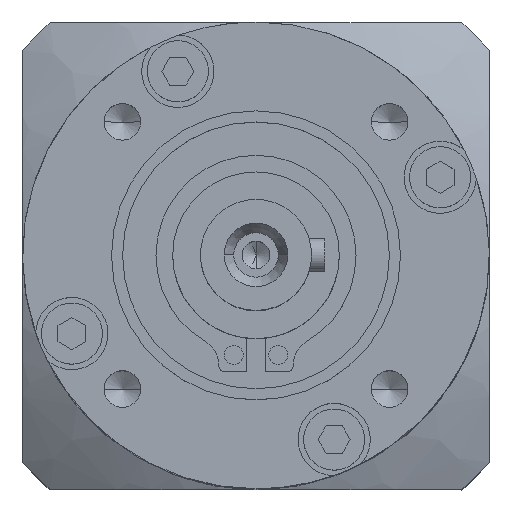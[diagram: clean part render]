
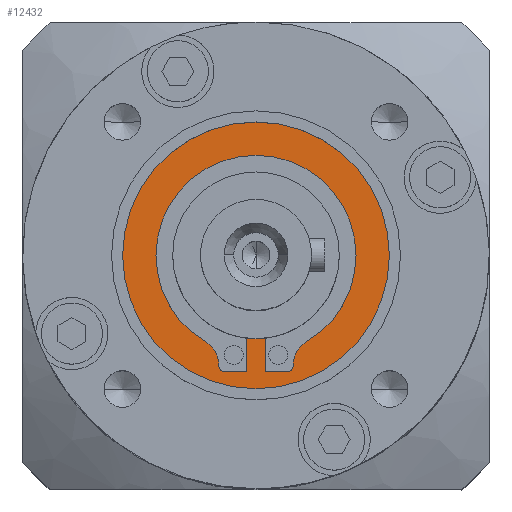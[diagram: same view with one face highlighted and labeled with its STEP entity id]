
A CAD part, top view. The second image highlights one B-rep face of the part: STEP entity #12432.
In plain terms, the highlighted planar face has unit normal (0, 0, 1).
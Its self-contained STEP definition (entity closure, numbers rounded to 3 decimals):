
#39 = ORIENTED_EDGE ( 'NONE', *, *, #1486, .F. ) ;
#129 = DIRECTION ( 'NONE',  ( 0., 0., 1. ) ) ;
#190 = VECTOR ( 'NONE', #17277, 1000. ) ;
#380 = EDGE_CURVE ( 'NONE', #20395, #11304, #1136, .T. ) ;
#399 = LINE ( 'NONE', #17210, #190 ) ;
#412 = EDGE_CURVE ( 'NONE', #4974, #2355, #9052, .T. ) ;
#534 = EDGE_CURVE ( 'NONE', #2355, #8012, #17212, .T. ) ;
#580 = EDGE_CURVE ( 'NONE', #2321, #17096, #399, .T. ) ;
#587 = VERTEX_POINT ( 'NONE', #17269 ) ;
#619 = LINE ( 'NONE', #15959, #16918 ) ;
#631 = AXIS2_PLACEMENT_3D ( 'NONE', #2913, #17170, #4498 ) ;
#654 = VECTOR ( 'NONE', #6638, 1000. ) ;
#829 = ORIENTED_EDGE ( 'NONE', *, *, #11017, .F. ) ;
#883 = VECTOR ( 'NONE', #9338, 1000. ) ;
#918 = VERTEX_POINT ( 'NONE', #19086 ) ;
#967 = ORIENTED_EDGE ( 'NONE', *, *, #19197, .F. ) ;
#1064 = CARTESIAN_POINT ( 'NONE',  ( 0., 0., -2.5 ) ) ;
#1066 = DIRECTION ( 'NONE',  ( 0., 0., -1. ) ) ;
#1088 = DIRECTION ( 'NONE',  ( 0., -1., 0. ) ) ;
#1136 = CIRCLE ( 'NONE', #15933, 9. ) ;
#1176 = VERTEX_POINT ( 'NONE', #14336 ) ;
#1324 = DIRECTION ( 'NONE',  ( -1., 0., 0. ) ) ;
#1348 = ORIENTED_EDGE ( 'NONE', *, *, #8764, .F. ) ;
#1461 = CARTESIAN_POINT ( 'NONE',  ( -3.35, -9.952, -2.5 ) ) ;
#1486 = EDGE_CURVE ( 'NONE', #5136, #2216, #15195, .T. ) ;
#1514 = CARTESIAN_POINT ( 'NONE',  ( 2.85, -9.952, -2.5 ) ) ;
#1724 = CIRCLE ( 'NONE', #17827, 0.5 ) ;
#1930 = VECTOR ( 'NONE', #9065, 1000. ) ;
#2103 = AXIS2_PLACEMENT_3D ( 'NONE', #2337, #13433, #3876 ) ;
#2141 = DIRECTION ( 'NONE',  ( 0., 0., -1. ) ) ;
#2216 = VERTEX_POINT ( 'NONE', #19877 ) ;
#2298 = ORIENTED_EDGE ( 'NONE', *, *, #534, .F. ) ;
#2321 = VERTEX_POINT ( 'NONE', #3595 ) ;
#2337 = CARTESIAN_POINT ( 'NONE',  ( -2.85, -9.952, -2.5 ) ) ;
#2355 = VERTEX_POINT ( 'NONE', #19672 ) ;
#2434 = EDGE_CURVE ( 'NONE', #18330, #5136, #12444, .T. ) ;
#2463 = EDGE_CURVE ( 'NONE', #2216, #5714, #12964, .T. ) ;
#2550 = CARTESIAN_POINT ( 'NONE',  ( 0., 0., -2.5 ) ) ;
#2712 = AXIS2_PLACEMENT_3D ( 'NONE', #4548, #8515, #8537 ) ;
#2913 = CARTESIAN_POINT ( 'NONE',  ( 12.144, -12.144, -2.5 ) ) ;
#3031 = DIRECTION ( 'NONE',  ( -1., 0., 0. ) ) ;
#3194 = CARTESIAN_POINT ( 'NONE',  ( -3.35, 0., -2.5 ) ) ;
#3583 = CIRCLE ( 'NONE', #2103, 0.5 ) ;
#3595 = CARTESIAN_POINT ( 'NONE',  ( -2.85, -10.452, -2.5 ) ) ;
#3876 = DIRECTION ( 'NONE',  ( -1., 0., 0. ) ) ;
#4091 = DIRECTION ( 'NONE',  ( -1., 0., 0. ) ) ;
#4161 = ORIENTED_EDGE ( 'NONE', *, *, #11210, .F. ) ;
#4446 = CIRCLE ( 'NONE', #2712, 9. ) ;
#4498 = DIRECTION ( 'NONE',  ( -1., 0., 0. ) ) ;
#4548 = CARTESIAN_POINT ( 'NONE',  ( 0., 0., -2.5 ) ) ;
#4726 = DIRECTION ( 'NONE',  ( 0., -1., 0. ) ) ;
#4974 = VERTEX_POINT ( 'NONE', #11175 ) ;
#5136 = VERTEX_POINT ( 'NONE', #14726 ) ;
#5251 = CARTESIAN_POINT ( 'NONE',  ( 0., 0., -2.5 ) ) ;
#5314 = DIRECTION ( 'NONE',  ( 0., 0., 1. ) ) ;
#5320 = FACE_BOUND ( 'NONE', #10332, .T. ) ;
#5394 = DIRECTION ( 'NONE',  ( -1., 0., 0. ) ) ;
#5465 = CARTESIAN_POINT ( 'NONE',  ( -9., 0., -2.5 ) ) ;
#5502 = VERTEX_POINT ( 'NONE', #12093 ) ;
#5687 = EDGE_CURVE ( 'NONE', #9029, #1176, #12868, .T. ) ;
#5714 = VERTEX_POINT ( 'NONE', #1461 ) ;
#5814 = DIRECTION ( 'NONE',  ( 0., 1., 0. ) ) ;
#6019 = CARTESIAN_POINT ( 'NONE',  ( 0.85, 0., -2.5 ) ) ;
#6267 = EDGE_CURVE ( 'NONE', #17096, #918, #14046, .T. ) ;
#6638 = DIRECTION ( 'NONE',  ( 0., -1., 0. ) ) ;
#7704 = VECTOR ( 'NONE', #4726, 1000. ) ;
#7732 = ORIENTED_EDGE ( 'NONE', *, *, #17841, .T. ) ;
#8012 = VERTEX_POINT ( 'NONE', #13486 ) ;
#8515 = DIRECTION ( 'NONE',  ( 0., 0., 1. ) ) ;
#8537 = DIRECTION ( 'NONE',  ( -1., 0., 0. ) ) ;
#8764 = EDGE_CURVE ( 'NONE', #5502, #587, #619, .T. ) ;
#8863 = AXIS2_PLACEMENT_3D ( 'NONE', #2550, #13643, #4091 ) ;
#8932 = CARTESIAN_POINT ( 'NONE',  ( 0., 12., -2.5 ) ) ;
#9029 = VERTEX_POINT ( 'NONE', #8932 ) ;
#9037 = CARTESIAN_POINT ( 'NONE',  ( -0.85, 0., -2.5 ) ) ;
#9052 = LINE ( 'NONE', #6019, #654 ) ;
#9065 = DIRECTION ( 'NONE',  ( 0., 1., 0. ) ) ;
#9148 = CARTESIAN_POINT ( 'NONE',  ( 0., 0., -2.5 ) ) ;
#9327 = EDGE_CURVE ( 'NONE', #11304, #18330, #4446, .T. ) ;
#9338 = DIRECTION ( 'NONE',  ( 1., 0., 0. ) ) ;
#9587 = DIRECTION ( 'NONE',  ( -1., 0., 0. ) ) ;
#9670 = ORIENTED_EDGE ( 'NONE', *, *, #412, .F. ) ;
#9785 = DIRECTION ( 'NONE',  ( 0., 0., -1. ) ) ;
#9807 = CARTESIAN_POINT ( 'NONE',  ( -5.85, -9.901, -2.5 ) ) ;
#10126 = FACE_OUTER_BOUND ( 'NONE', #16093, .T. ) ;
#10332 = EDGE_LOOP ( 'NONE', ( #19144, #967, #18749, #39, #11564, #10806, #15620, #829, #1348, #4161, #2298, #9670, #7732, #19760 ) ) ;
#10748 = DIRECTION ( 'NONE',  ( 0., -1., 0. ) ) ;
#10806 = ORIENTED_EDGE ( 'NONE', *, *, #9327, .F. ) ;
#11017 = EDGE_CURVE ( 'NONE', #587, #20395, #13602, .T. ) ;
#11162 = CARTESIAN_POINT ( 'NONE',  ( 0., 0., -2.5 ) ) ;
#11175 = CARTESIAN_POINT ( 'NONE',  ( 0.85, -7.452, -2.5 ) ) ;
#11210 = EDGE_CURVE ( 'NONE', #8012, #5502, #1724, .T. ) ;
#11304 = VERTEX_POINT ( 'NONE', #12803 ) ;
#11381 = CARTESIAN_POINT ( 'NONE',  ( 4.578, -7.749, -2.5 ) ) ;
#11564 = ORIENTED_EDGE ( 'NONE', *, *, #2434, .F. ) ;
#11622 = CARTESIAN_POINT ( 'NONE',  ( 5.85, -9.901, -2.5 ) ) ;
#12093 = CARTESIAN_POINT ( 'NONE',  ( 3.35, -9.952, -2.5 ) ) ;
#12113 = AXIS2_PLACEMENT_3D ( 'NONE', #1064, #1066, #1088 ) ;
#12432 = ADVANCED_FACE ( 'NONE', ( #5320, #10126 ), #12457, .F. ) ;
#12444 = CIRCLE ( 'NONE', #17602, 9. ) ;
#12457 = PLANE ( 'NONE',  #631 ) ;
#12583 = DIRECTION ( 'NONE',  ( 0., 0., 1. ) ) ;
#12786 = AXIS2_PLACEMENT_3D ( 'NONE', #9148, #20240, #10748 ) ;
#12803 = CARTESIAN_POINT ( 'NONE',  ( 9., 0., -2.5 ) ) ;
#12868 = CIRCLE ( 'NONE', #12113, 12. ) ;
#12964 = LINE ( 'NONE', #3194, #7704 ) ;
#13223 = DIRECTION ( 'NONE',  ( -1., 0., 0. ) ) ;
#13433 = DIRECTION ( 'NONE',  ( 0., 0., 1. ) ) ;
#13486 = CARTESIAN_POINT ( 'NONE',  ( 2.85, -10.452, -2.5 ) ) ;
#13561 = EDGE_CURVE ( 'NONE', #1176, #9029, #18229, .T. ) ;
#13602 = CIRCLE ( 'NONE', #17162, 2.5 ) ;
#13640 = ORIENTED_EDGE ( 'NONE', *, *, #13561, .F. ) ;
#13643 = DIRECTION ( 'NONE',  ( 0., 0., -1. ) ) ;
#13814 = CARTESIAN_POINT ( 'NONE',  ( -0.85, -10.452, -2.5 ) ) ;
#14046 = LINE ( 'NONE', #9037, #1930 ) ;
#14336 = CARTESIAN_POINT ( 'NONE',  ( 0., -12., -2.5 ) ) ;
#14726 = CARTESIAN_POINT ( 'NONE',  ( -4.578, -7.749, -2.5 ) ) ;
#15195 = CIRCLE ( 'NONE', #19182, 2.5 ) ;
#15576 = CIRCLE ( 'NONE', #8863, 7.5 ) ;
#15620 = ORIENTED_EDGE ( 'NONE', *, *, #380, .F. ) ;
#15655 = CARTESIAN_POINT ( 'NONE',  ( 0., -10.452, -2.5 ) ) ;
#15933 = AXIS2_PLACEMENT_3D ( 'NONE', #5251, #5314, #5394 ) ;
#15959 = CARTESIAN_POINT ( 'NONE',  ( 3.35, 0., -2.5 ) ) ;
#16093 = EDGE_LOOP ( 'NONE', ( #13640, #18522 ) ) ;
#16918 = VECTOR ( 'NONE', #5814, 1000. ) ;
#17096 = VERTEX_POINT ( 'NONE', #13814 ) ;
#17162 = AXIS2_PLACEMENT_3D ( 'NONE', #11622, #2141, #13223 ) ;
#17170 = DIRECTION ( 'NONE',  ( 0., 0., -1. ) ) ;
#17210 = CARTESIAN_POINT ( 'NONE',  ( 0., -10.452, -2.5 ) ) ;
#17212 = LINE ( 'NONE', #15655, #883 ) ;
#17269 = CARTESIAN_POINT ( 'NONE',  ( 3.35, -9.901, -2.5 ) ) ;
#17277 = DIRECTION ( 'NONE',  ( 1., 0., 0. ) ) ;
#17602 = AXIS2_PLACEMENT_3D ( 'NONE', #11162, #129, #9587 ) ;
#17827 = AXIS2_PLACEMENT_3D ( 'NONE', #1514, #12583, #3031 ) ;
#17841 = EDGE_CURVE ( 'NONE', #4974, #918, #15576, .T. ) ;
#18229 = CIRCLE ( 'NONE', #12786, 12. ) ;
#18330 = VERTEX_POINT ( 'NONE', #5465 ) ;
#18522 = ORIENTED_EDGE ( 'NONE', *, *, #5687, .F. ) ;
#18749 = ORIENTED_EDGE ( 'NONE', *, *, #2463, .F. ) ;
#19086 = CARTESIAN_POINT ( 'NONE',  ( -0.85, -7.452, -2.5 ) ) ;
#19144 = ORIENTED_EDGE ( 'NONE', *, *, #580, .F. ) ;
#19182 = AXIS2_PLACEMENT_3D ( 'NONE', #9807, #9785, #1324 ) ;
#19197 = EDGE_CURVE ( 'NONE', #5714, #2321, #3583, .T. ) ;
#19672 = CARTESIAN_POINT ( 'NONE',  ( 0.85, -10.452, -2.5 ) ) ;
#19760 = ORIENTED_EDGE ( 'NONE', *, *, #6267, .F. ) ;
#19877 = CARTESIAN_POINT ( 'NONE',  ( -3.35, -9.901, -2.5 ) ) ;
#20240 = DIRECTION ( 'NONE',  ( 0., 0., -1. ) ) ;
#20395 = VERTEX_POINT ( 'NONE', #11381 ) ;
